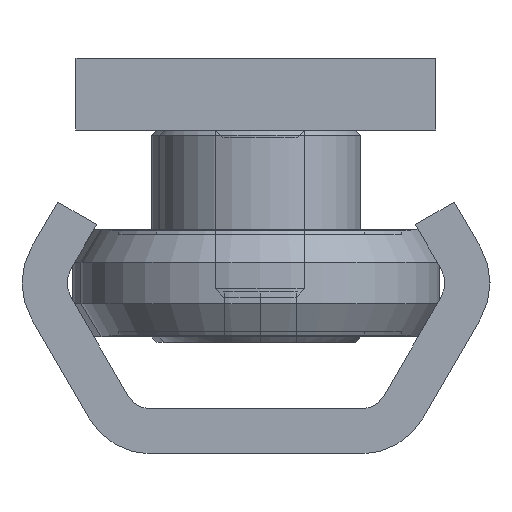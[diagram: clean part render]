
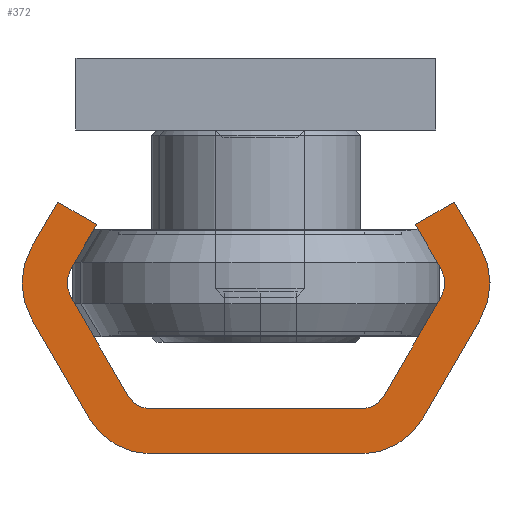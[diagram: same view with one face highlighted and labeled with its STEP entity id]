
A CAD part, left-side view. The second image highlights one B-rep face of the part: STEP entity #372.
In plain terms, the highlighted planar face has unit normal (-1, 0, 0).
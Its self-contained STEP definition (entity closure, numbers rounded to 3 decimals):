
#372 = ADVANCED_FACE( '', ( #827 ), #828, .F. );
#827 = FACE_OUTER_BOUND( '', #1579, .T. );
#828 = PLANE( '', #1580 );
#1579 = EDGE_LOOP( '', ( #2594, #2595, #2596, #2597, #2598, #2599, #2600, #2601, #2602, #2603, #2604, #2605, #2606, #2607, #2608, #2609, #2610, #2611, #2612, #2613 ) );
#1580 = AXIS2_PLACEMENT_3D( '', #2614, #2615, #2616 );
#2594 = ORIENTED_EDGE( '', *, *, #3926, .F. );
#2595 = ORIENTED_EDGE( '', *, *, #3927, .F. );
#2596 = ORIENTED_EDGE( '', *, *, #3928, .F. );
#2597 = ORIENTED_EDGE( '', *, *, #3929, .F. );
#2598 = ORIENTED_EDGE( '', *, *, #3930, .F. );
#2599 = ORIENTED_EDGE( '', *, *, #3931, .F. );
#2600 = ORIENTED_EDGE( '', *, *, #3932, .F. );
#2601 = ORIENTED_EDGE( '', *, *, #3933, .T. );
#2602 = ORIENTED_EDGE( '', *, *, #3934, .F. );
#2603 = ORIENTED_EDGE( '', *, *, #3935, .T. );
#2604 = ORIENTED_EDGE( '', *, *, #3936, .F. );
#2605 = ORIENTED_EDGE( '', *, *, #3937, .T. );
#2606 = ORIENTED_EDGE( '', *, *, #3938, .F. );
#2607 = ORIENTED_EDGE( '', *, *, #3939, .T. );
#2608 = ORIENTED_EDGE( '', *, *, #3940, .F. );
#2609 = ORIENTED_EDGE( '', *, *, #3870, .F. );
#2610 = ORIENTED_EDGE( '', *, *, #3941, .F. );
#2611 = ORIENTED_EDGE( '', *, *, #3942, .F. );
#2612 = ORIENTED_EDGE( '', *, *, #3943, .F. );
#2613 = ORIENTED_EDGE( '', *, *, #3944, .F. );
#2614 = CARTESIAN_POINT( '', ( 0., -5.825, -4. ) );
#2615 = DIRECTION( '', ( 1., 0., 0. ) );
#2616 = DIRECTION( '', ( 0., 0., -1. ) );
#3870 = EDGE_CURVE( '', #4407, #4408, #4409, .T. );
#3926 = EDGE_CURVE( '', #4503, #4504, #4505, .T. );
#3927 = EDGE_CURVE( '', #4506, #4503, #4507, .T. );
#3928 = EDGE_CURVE( '', #4508, #4506, #4509, .T. );
#3929 = EDGE_CURVE( '', #4510, #4508, #4511, .T. );
#3930 = EDGE_CURVE( '', #4512, #4510, #4513, .T. );
#3931 = EDGE_CURVE( '', #4514, #4512, #4515, .T. );
#3932 = EDGE_CURVE( '', #4516, #4514, #4517, .T. );
#3933 = EDGE_CURVE( '', #4516, #4518, #4519, .T. );
#3934 = EDGE_CURVE( '', #4520, #4518, #4521, .T. );
#3935 = EDGE_CURVE( '', #4520, #4522, #4523, .T. );
#3936 = EDGE_CURVE( '', #4524, #4522, #4525, .T. );
#3937 = EDGE_CURVE( '', #4524, #4526, #4527, .T. );
#3938 = EDGE_CURVE( '', #4528, #4526, #4529, .T. );
#3939 = EDGE_CURVE( '', #4528, #4530, #4531, .T. );
#3940 = EDGE_CURVE( '', #4408, #4530, #4532, .T. );
#3941 = EDGE_CURVE( '', #4533, #4407, #4534, .T. );
#3942 = EDGE_CURVE( '', #4535, #4533, #4536, .T. );
#3943 = EDGE_CURVE( '', #4537, #4535, #4538, .T. );
#3944 = EDGE_CURVE( '', #4504, #4537, #4539, .T. );
#4407 = VERTEX_POINT( '', #5198 );
#4408 = VERTEX_POINT( '', #5199 );
#4409 = LINE( '', #5200, #5201 );
#4503 = VERTEX_POINT( '', #5319 );
#4504 = VERTEX_POINT( '', #5320 );
#4505 = LINE( '', #5321, #5322 );
#4506 = VERTEX_POINT( '', #5323 );
#4507 = CIRCLE( '', #5324, 4. );
#4508 = VERTEX_POINT( '', #5325 );
#4509 = LINE( '', #5326, #5327 );
#4510 = VERTEX_POINT( '', #5328 );
#4511 = CIRCLE( '', #5329, 4. );
#4512 = VERTEX_POINT( '', #5330 );
#4513 = LINE( '', #5331, #5332 );
#4514 = VERTEX_POINT( '', #5333 );
#4515 = LINE( '', #5334, #5335 );
#4516 = VERTEX_POINT( '', #5336 );
#4517 = LINE( '', #5337, #5338 );
#4518 = VERTEX_POINT( '', #5339 );
#4519 = CIRCLE( '', #5340, 1.5 );
#4520 = VERTEX_POINT( '', #5341 );
#4521 = LINE( '', #5342, #5343 );
#4522 = VERTEX_POINT( '', #5344 );
#4523 = CIRCLE( '', #5345, 1.5 );
#4524 = VERTEX_POINT( '', #5346 );
#4525 = LINE( '', #5347, #5348 );
#4526 = VERTEX_POINT( '', #5349 );
#4527 = CIRCLE( '', #5350, 1.5 );
#4528 = VERTEX_POINT( '', #5351 );
#4529 = LINE( '', #5352, #5353 );
#4530 = VERTEX_POINT( '', #5354 );
#4531 = CIRCLE( '', #5355, 1.5 );
#4532 = LINE( '', #5356, #5357 );
#4533 = VERTEX_POINT( '', #5358 );
#4534 = LINE( '', #5359, #5360 );
#4535 = VERTEX_POINT( '', #5361 );
#4536 = CIRCLE( '', #5362, 4. );
#4537 = VERTEX_POINT( '', #5363 );
#4538 = LINE( '', #5364, #5365 );
#4539 = CIRCLE( '', #5366, 4. );
#5198 = CARTESIAN_POINT( '', ( 0., -11.021, -14. ) );
#5199 = CARTESIAN_POINT( '', ( 0., -8.856, -12.75 ) );
#5200 = CARTESIAN_POINT( '', ( 0., -11.021, -14. ) );
#5201 = VECTOR( '', #6091, 1000. );
#5319 = CARTESIAN_POINT( '', ( 0., 5.825, 0. ) );
#5320 = CARTESIAN_POINT( '', ( 0., -5.825, 0. ) );
#5321 = CARTESIAN_POINT( '', ( 0., 5.825, 0. ) );
#5322 = VECTOR( '', #6167, 1000. );
#5323 = CARTESIAN_POINT( '', ( 0., 9.289, -2. ) );
#5324 = AXIS2_PLACEMENT_3D( '', #6168, #6169, #6170 );
#5325 = CARTESIAN_POINT( '', ( 0., 12.464, -7.5 ) );
#5326 = CARTESIAN_POINT( '', ( 0., 12.464, -7.5 ) );
#5327 = VECTOR( '', #6171, 1000. );
#5328 = CARTESIAN_POINT( '', ( 0., 12.464, -11.5 ) );
#5329 = AXIS2_PLACEMENT_3D( '', #6172, #6173, #6174 );
#5330 = CARTESIAN_POINT( '', ( 0., 11.021, -14. ) );
#5331 = CARTESIAN_POINT( '', ( 0., 11.021, -14. ) );
#5332 = VECTOR( '', #6175, 1000. );
#5333 = CARTESIAN_POINT( '', ( 0., 8.856, -12.75 ) );
#5334 = CARTESIAN_POINT( '', ( 0., 8.856, -12.75 ) );
#5335 = VECTOR( '', #6176, 1000. );
#5336 = CARTESIAN_POINT( '', ( 0., 10.299, -10.25 ) );
#5337 = CARTESIAN_POINT( '', ( 0., 10.299, -10.25 ) );
#5338 = VECTOR( '', #6177, 1000. );
#5339 = CARTESIAN_POINT( '', ( 0., 10.299, -8.75 ) );
#5340 = AXIS2_PLACEMENT_3D( '', #6178, #6179, #6180 );
#5341 = CARTESIAN_POINT( '', ( 0., 7.124, -3.25 ) );
#5342 = CARTESIAN_POINT( '', ( 0., 7.124, -3.25 ) );
#5343 = VECTOR( '', #6181, 1000. );
#5344 = CARTESIAN_POINT( '', ( 0., 5.825, -2.5 ) );
#5345 = AXIS2_PLACEMENT_3D( '', #6182, #6183, #6184 );
#5346 = CARTESIAN_POINT( '', ( 0., -5.825, -2.5 ) );
#5347 = CARTESIAN_POINT( '', ( 0., -5.825, -2.5 ) );
#5348 = VECTOR( '', #6185, 1000. );
#5349 = CARTESIAN_POINT( '', ( 0., -7.124, -3.25 ) );
#5350 = AXIS2_PLACEMENT_3D( '', #6186, #6187, #6188 );
#5351 = CARTESIAN_POINT( '', ( 0., -10.299, -8.75 ) );
#5352 = CARTESIAN_POINT( '', ( 0., -10.299, -8.75 ) );
#5353 = VECTOR( '', #6189, 1000. );
#5354 = CARTESIAN_POINT( '', ( 0., -10.299, -10.25 ) );
#5355 = AXIS2_PLACEMENT_3D( '', #6190, #6191, #6192 );
#5356 = CARTESIAN_POINT( '', ( 0., -8.856, -12.75 ) );
#5357 = VECTOR( '', #6193, 1000. );
#5358 = CARTESIAN_POINT( '', ( 0., -12.464, -11.5 ) );
#5359 = CARTESIAN_POINT( '', ( 0., -12.464, -11.5 ) );
#5360 = VECTOR( '', #6194, 1000. );
#5361 = CARTESIAN_POINT( '', ( 0., -12.464, -7.5 ) );
#5362 = AXIS2_PLACEMENT_3D( '', #6195, #6196, #6197 );
#5363 = CARTESIAN_POINT( '', ( 0., -9.289, -2. ) );
#5364 = CARTESIAN_POINT( '', ( 0., -9.289, -2. ) );
#5365 = VECTOR( '', #6198, 1000. );
#5366 = AXIS2_PLACEMENT_3D( '', #6199, #6200, #6201 );
#6091 = DIRECTION( '', ( 0., 0.866, 0.5 ) );
#6167 = DIRECTION( '', ( 0., -1., 0. ) );
#6168 = CARTESIAN_POINT( '', ( 0., 5.825, -4. ) );
#6169 = DIRECTION( '', ( 1., 0., 0. ) );
#6170 = DIRECTION( '', ( 0., 0., -1. ) );
#6171 = DIRECTION( '', ( 0., -0.5, 0.866 ) );
#6172 = CARTESIAN_POINT( '', ( 0., 9., -9.5 ) );
#6173 = DIRECTION( '', ( 1., 0., 0. ) );
#6174 = DIRECTION( '', ( 0., 0., -1. ) );
#6175 = DIRECTION( '', ( 0., 0.5, 0.866 ) );
#6176 = DIRECTION( '', ( 0., 0.866, -0.5 ) );
#6177 = DIRECTION( '', ( 0., -0.5, -0.866 ) );
#6178 = CARTESIAN_POINT( '', ( 0., 9., -9.5 ) );
#6179 = DIRECTION( '', ( 1., 0., 0. ) );
#6180 = DIRECTION( '', ( 0., 0., -1. ) );
#6181 = DIRECTION( '', ( 0., 0.5, -0.866 ) );
#6182 = CARTESIAN_POINT( '', ( 0., 5.825, -4. ) );
#6183 = DIRECTION( '', ( 1., 0., 0. ) );
#6184 = DIRECTION( '', ( 0., 0., -1. ) );
#6185 = DIRECTION( '', ( 0., 1., 0. ) );
#6186 = CARTESIAN_POINT( '', ( 0., -5.825, -4. ) );
#6187 = DIRECTION( '', ( 1., 0., 0. ) );
#6188 = DIRECTION( '', ( 0., 0., -1. ) );
#6189 = DIRECTION( '', ( 0., 0.5, 0.866 ) );
#6190 = CARTESIAN_POINT( '', ( 0., -9., -9.5 ) );
#6191 = DIRECTION( '', ( 1., 0., 0. ) );
#6192 = DIRECTION( '', ( 0., 0., -1. ) );
#6193 = DIRECTION( '', ( 0., -0.5, 0.866 ) );
#6194 = DIRECTION( '', ( 0., 0.5, -0.866 ) );
#6195 = CARTESIAN_POINT( '', ( 0., -9., -9.5 ) );
#6196 = DIRECTION( '', ( 1., 0., 0. ) );
#6197 = DIRECTION( '', ( 0., 0., -1. ) );
#6198 = DIRECTION( '', ( 0., -0.5, -0.866 ) );
#6199 = CARTESIAN_POINT( '', ( 0., -5.825, -4. ) );
#6200 = DIRECTION( '', ( 1., 0., 0. ) );
#6201 = DIRECTION( '', ( 0., 0., -1. ) );
